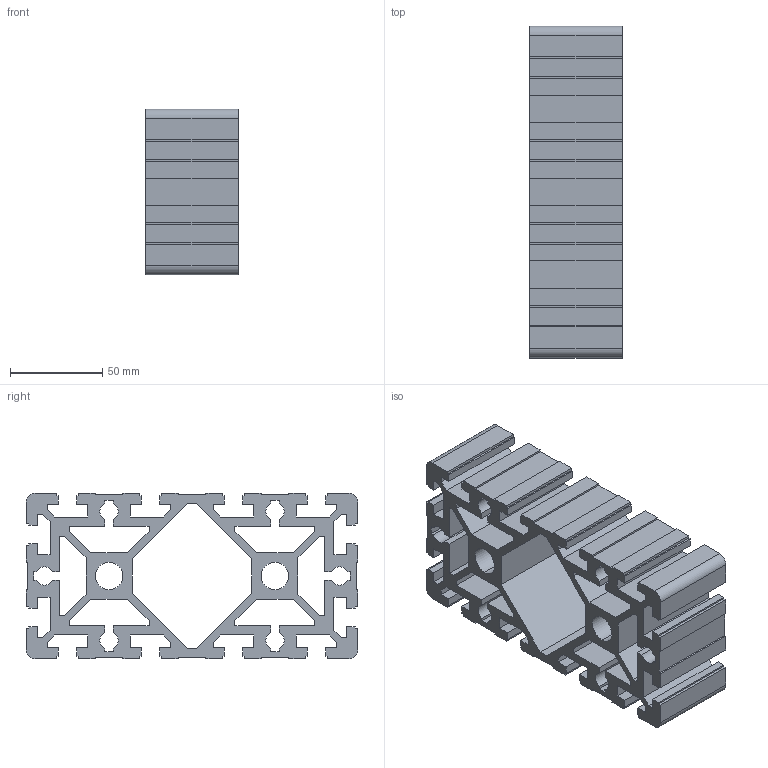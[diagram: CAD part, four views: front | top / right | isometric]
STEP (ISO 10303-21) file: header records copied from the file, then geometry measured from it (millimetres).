
FILE_DESCRIPTION(('no description'),'unknown implementation level');
FILE_NAME('3842990416_135152928.stp',' ',('Bosch Rexroth AG'),('CADClick - KiM GmbH - www.kimweb.de'),'unknown preprocess','ACIS','unknown authorization');
FILE_SCHEMA(('automotive_design'));
Length unit declared in the file: millimetre
Products named in the file (1): 1
Bounding box: 50 x 180 x 90 mm (x, y, z)
Volume: 317232.1 mm3; surface area: 124515 mm2
Topology: 1 solids, 1 shells, 294 faces, 876 edges, 584 vertices
Faces by surface type: plane 274, cylinder 20
Entity records: 19412 total; most frequent: STYLED_ITEM 1755, PRESENTATION_STYLE_ASSIGNMENT 1755, CARTESIAN_POINT 1755, COLOUR_RGB 1755, ORIENTED_EDGE 1752, DIRECTION 1506, EDGE_CURVE 876, CURVE_STYLE 876
